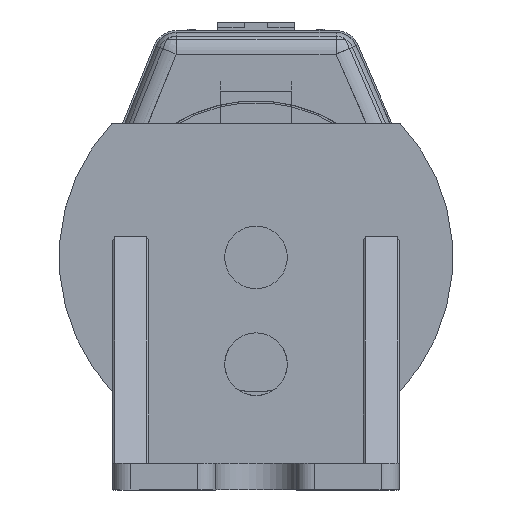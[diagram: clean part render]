
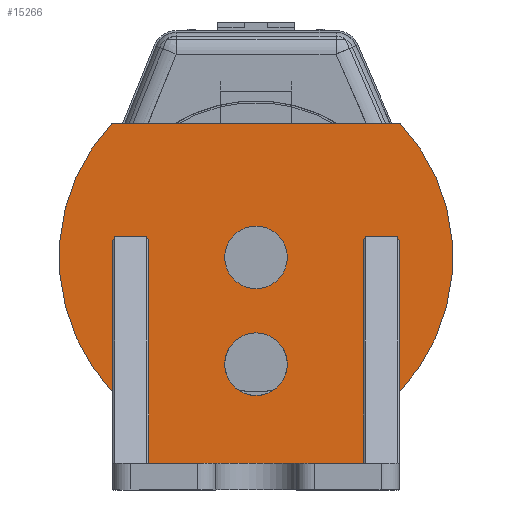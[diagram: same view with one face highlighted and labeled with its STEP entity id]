
A CAD part, left-side view. The second image highlights one B-rep face of the part: STEP entity #15266.
In plain terms, the highlighted planar face has unit normal (-1, 0, 0).
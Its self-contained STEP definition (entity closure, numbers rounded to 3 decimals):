
#3647=CARTESIAN_POINT('',(4.,-8.05,13.944));
#3648=CARTESIAN_POINT('',(4.,-8.05,13.994));
#3649=CARTESIAN_POINT('',(4.,-8.029,14.073));
#3650=CARTESIAN_POINT('',(4.,-8.,14.144));
#3651=CARTESIAN_POINT('',(4.,-7.95,14.144));
#3653=DIRECTION('',(0.,1.,0.));
#3654=VECTOR('',#3653,1.8);
#3655=CARTESIAN_POINT('',(4.,-7.95,14.144));
#3656=LINE('',#3655,#3654);
#3657=DIRECTION('',(0.,0.,-1.));
#3658=VECTOR('',#3657,12.444);
#3659=CARTESIAN_POINT('',(4.,-6.05,13.944));
#3660=LINE('',#3659,#3658);
#3661=DIRECTION('',(0.,1.,0.));
#3662=VECTOR('',#3661,12.);
#3663=CARTESIAN_POINT('',(4.,-6.05,1.5));
#3664=LINE('',#3663,#3662);
#3665=DIRECTION('',(0.,0.,1.));
#3666=VECTOR('',#3665,12.444);
#3667=CARTESIAN_POINT('',(4.,5.95,1.5));
#3668=LINE('',#3667,#3666);
#3669=DIRECTION('',(0.,1.,0.));
#3670=VECTOR('',#3669,1.8);
#3671=CARTESIAN_POINT('',(4.,6.05,14.144));
#3672=LINE('',#3671,#3670);
#3673=CARTESIAN_POINT('',(4.,-0.05,13.));
#3674=DIRECTION('',(1.,0.,0.));
#3675=DIRECTION('',(0.,0.727,-0.686));
#3676=AXIS2_PLACEMENT_3D('',#3673,#3674,#3675);
#3678=DIRECTION('',(0.,-1.,0.));
#3679=VECTOR('',#3678,16.093);
#3680=CARTESIAN_POINT('',(4.,7.997,20.5));
#3681=LINE('',#3680,#3679);
#3682=CARTESIAN_POINT('',(4.,-0.05,13.));
#3683=DIRECTION('',(1.,0.,0.));
#3684=DIRECTION('',(0.,-0.731,0.682));
#3685=AXIS2_PLACEMENT_3D('',#3682,#3683,#3684);
#3687=CARTESIAN_POINT('',(4.,-0.05,7.03));
#3688=DIRECTION('',(-1.,0.,0.));
#3689=DIRECTION('',(0.,0.,1.));
#3690=AXIS2_PLACEMENT_3D('',#3687,#3688,#3689);
#3692=CARTESIAN_POINT('',(4.,-0.05,7.03));
#3693=DIRECTION('',(-1.,0.,0.));
#3694=DIRECTION('',(0.,0.,-1.));
#3695=AXIS2_PLACEMENT_3D('',#3692,#3693,#3694);
#3697=CARTESIAN_POINT('',(4.,-0.05,13.));
#3698=DIRECTION('',(-1.,0.,0.));
#3699=DIRECTION('',(0.,0.,1.));
#3700=AXIS2_PLACEMENT_3D('',#3697,#3698,#3699);
#3702=CARTESIAN_POINT('',(4.,-0.05,13.));
#3703=DIRECTION('',(-1.,0.,0.));
#3704=DIRECTION('',(0.,0.,-1.));
#3705=AXIS2_PLACEMENT_3D('',#3702,#3703,#3704);
#3776=DIRECTION('',(0.,0.,-1.));
#3777=VECTOR('',#3776,8.494);
#3778=CARTESIAN_POINT('',(4.,-8.05,13.944));
#3779=LINE('',#3778,#3777);
#7058=DIRECTION('',(0.,0.,1.));
#7059=VECTOR('',#7058,8.493);
#7060=CARTESIAN_POINT('',(4.,7.95,5.451));
#7061=LINE('',#7060,#7059);
#7062=CARTESIAN_POINT('',(4.,7.95,13.944));
#7063=CARTESIAN_POINT('',(4.,7.95,13.994));
#7064=CARTESIAN_POINT('',(4.,7.929,14.073));
#7065=CARTESIAN_POINT('',(4.,7.9,14.144));
#7066=CARTESIAN_POINT('',(4.,7.85,14.144));
#7076=CARTESIAN_POINT('',(4.,6.05,14.144));
#7077=CARTESIAN_POINT('',(4.,6.,14.144));
#7078=CARTESIAN_POINT('',(4.,5.971,14.073));
#7079=CARTESIAN_POINT('',(4.,5.95,13.994));
#7080=CARTESIAN_POINT('',(4.,5.95,13.944));
#7199=CARTESIAN_POINT('',(4.,-6.05,13.944));
#7200=CARTESIAN_POINT('',(4.,-6.05,13.994));
#7201=CARTESIAN_POINT('',(4.,-6.071,14.073));
#7202=CARTESIAN_POINT('',(4.,-6.1,14.144));
#7203=CARTESIAN_POINT('',(4.,-6.15,14.144));
#8322=CARTESIAN_POINT('',(4.,-0.05,8.78));
#8324=VERTEX_POINT('',#8322);
#8325=CARTESIAN_POINT('',(4.,-0.05,5.28));
#8326=VERTEX_POINT('',#8325);
#8405=CARTESIAN_POINT('',(4.,-8.096,20.5));
#8406=VERTEX_POINT('',#8405);
#8407=CARTESIAN_POINT('',(4.,7.997,20.5));
#8408=VERTEX_POINT('',#8407);
#8409=CARTESIAN_POINT('',(4.,-8.05,5.45));
#8410=VERTEX_POINT('',#8409);
#8412=CARTESIAN_POINT('',(4.,-8.05,13.944));
#8414=VERTEX_POINT('',#8412);
#8420=CARTESIAN_POINT('',(4.,-7.95,14.144));
#8421=VERTEX_POINT('',#8420);
#8446=CARTESIAN_POINT('',(4.,5.95,1.5));
#8447=VERTEX_POINT('',#8446);
#8448=CARTESIAN_POINT('',(4.,-6.05,1.5));
#8449=VERTEX_POINT('',#8448);
#8471=CARTESIAN_POINT('',(4.,7.95,13.944));
#8472=VERTEX_POINT('',#8471);
#8473=CARTESIAN_POINT('',(4.,7.95,5.451));
#8474=VERTEX_POINT('',#8473);
#8475=VERTEX_POINT('',#7066);
#8476=CARTESIAN_POINT('',(4.,-6.15,14.144));
#8477=VERTEX_POINT('',#8476);
#8478=VERTEX_POINT('',#7199);
#8479=CARTESIAN_POINT('',(4.,5.95,13.944));
#8480=VERTEX_POINT('',#8479);
#8481=VERTEX_POINT('',#7076);
#8482=CARTESIAN_POINT('',(4.,-0.05,14.75));
#8483=CARTESIAN_POINT('',(4.,-0.05,11.25));
#8484=VERTEX_POINT('',#8482);
#8485=VERTEX_POINT('',#8483);
#15221=CARTESIAN_POINT('',(4.,-0.05,13.));
#15222=DIRECTION('',(1.,0.,0.));
#15223=DIRECTION('',(0.,0.,-1.));
#15224=AXIS2_PLACEMENT_3D('',#15221,#15222,#15223);
#15225=PLANE('',#15224);
#15227=ORIENTED_EDGE('',*,*,#15226,.T.);
#15229=ORIENTED_EDGE('',*,*,#15228,.T.);
#15231=ORIENTED_EDGE('',*,*,#15230,.F.);
#15233=ORIENTED_EDGE('',*,*,#15232,.T.);
#15235=ORIENTED_EDGE('',*,*,#15234,.T.);
#15237=ORIENTED_EDGE('',*,*,#15236,.T.);
#15239=ORIENTED_EDGE('',*,*,#15238,.F.);
#15241=ORIENTED_EDGE('',*,*,#15240,.T.);
#15243=ORIENTED_EDGE('',*,*,#15242,.F.);
#15245=ORIENTED_EDGE('',*,*,#15244,.F.);
#15247=ORIENTED_EDGE('',*,*,#15246,.T.);
#15249=ORIENTED_EDGE('',*,*,#15248,.T.);
#15251=ORIENTED_EDGE('',*,*,#15250,.T.);
#15253=ORIENTED_EDGE('',*,*,#15252,.F.);
#15254=EDGE_LOOP('',(#15227,#15229,#15231,#15233,#15235,#15237,#15239,#15241,
#15243,#15245,#15247,#15249,#15251,#15253));
#15255=FACE_OUTER_BOUND('',#15254,.F.);
#15257=ORIENTED_EDGE('',*,*,#15256,.T.);
#15259=ORIENTED_EDGE('',*,*,#15258,.T.);
#15260=EDGE_LOOP('',(#15257,#15259));
#15261=FACE_BOUND('',#15260,.F.);
#15262=ORIENTED_EDGE('',*,*,#15186,.T.);
#15263=ORIENTED_EDGE('',*,*,#15208,.T.);
#15264=EDGE_LOOP('',(#15262,#15263));
#15265=FACE_BOUND('',#15264,.F.);
#3652=B_SPLINE_CURVE_WITH_KNOTS('',3,(#3647,#3648,#3649,#3650,#3651),
.UNSPECIFIED.,.F.,.F.,(4,1,4),(0.,0.5,1.),.UNSPECIFIED.);
#3677=CIRCLE('',#3676,11.);
#3686=CIRCLE('',#3685,11.);
#3691=CIRCLE('',#3690,1.75);
#3696=CIRCLE('',#3695,1.75);
#3701=CIRCLE('',#3700,1.75);
#3706=CIRCLE('',#3705,1.75);
#7067=B_SPLINE_CURVE_WITH_KNOTS('',3,(#7062,#7063,#7064,#7065,#7066),
.UNSPECIFIED.,.F.,.F.,(4,1,4),(0.,0.5,1.),.UNSPECIFIED.);
#7081=B_SPLINE_CURVE_WITH_KNOTS('',3,(#7076,#7077,#7078,#7079,#7080),
.UNSPECIFIED.,.F.,.F.,(4,1,4),(0.,0.5,1.),.UNSPECIFIED.);
#7204=B_SPLINE_CURVE_WITH_KNOTS('',3,(#7199,#7200,#7201,#7202,#7203),
.UNSPECIFIED.,.F.,.F.,(4,1,4),(0.,0.5,1.),.UNSPECIFIED.);
#15186=EDGE_CURVE('',#8484,#8485,#3701,.T.);
#15208=EDGE_CURVE('',#8485,#8484,#3706,.T.);
#15226=EDGE_CURVE('',#8414,#8421,#3652,.T.);
#15228=EDGE_CURVE('',#8421,#8477,#3656,.T.);
#15230=EDGE_CURVE('',#8478,#8477,#7204,.T.);
#15232=EDGE_CURVE('',#8478,#8449,#3660,.T.);
#15234=EDGE_CURVE('',#8449,#8447,#3664,.T.);
#15236=EDGE_CURVE('',#8447,#8480,#3668,.T.);
#15238=EDGE_CURVE('',#8481,#8480,#7081,.T.);
#15240=EDGE_CURVE('',#8481,#8475,#3672,.T.);
#15242=EDGE_CURVE('',#8472,#8475,#7067,.T.);
#15244=EDGE_CURVE('',#8474,#8472,#7061,.T.);
#15246=EDGE_CURVE('',#8474,#8408,#3677,.T.);
#15248=EDGE_CURVE('',#8408,#8406,#3681,.T.);
#15250=EDGE_CURVE('',#8406,#8410,#3686,.T.);
#15252=EDGE_CURVE('',#8414,#8410,#3779,.T.);
#15256=EDGE_CURVE('',#8324,#8326,#3691,.T.);
#15258=EDGE_CURVE('',#8326,#8324,#3696,.T.);
#15266=ADVANCED_FACE('',(#15255,#15261,#15265),#15225,.F.);
